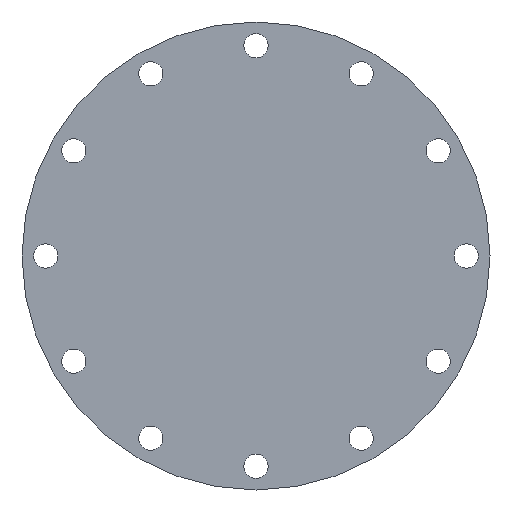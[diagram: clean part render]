
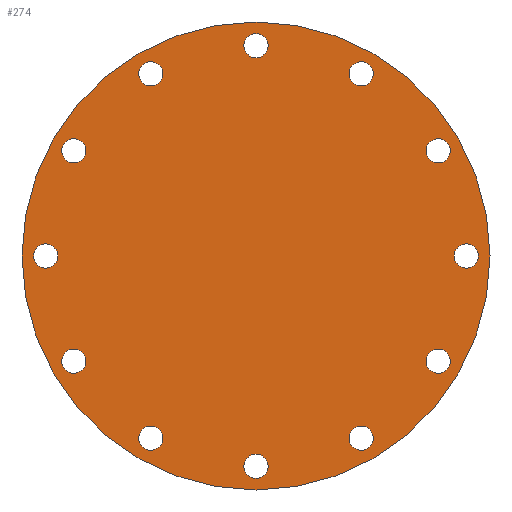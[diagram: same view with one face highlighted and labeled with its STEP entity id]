
A CAD part, front view. The second image highlights one B-rep face of the part: STEP entity #274.
In plain terms, the highlighted planar face has unit normal (0, -1, 0).
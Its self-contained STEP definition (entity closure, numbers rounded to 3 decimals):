
#13=PLANE($,#316);
#27=FACE_BOUND($,#91,.T.);
#28=FACE_BOUND($,#92,.T.);
#29=FACE_BOUND($,#93,.T.);
#30=FACE_BOUND($,#94,.T.);
#31=FACE_BOUND($,#95,.T.);
#32=FACE_BOUND($,#96,.T.);
#33=FACE_BOUND($,#97,.T.);
#34=FACE_BOUND($,#98,.T.);
#35=FACE_BOUND($,#99,.T.);
#36=FACE_BOUND($,#100,.T.);
#37=FACE_BOUND($,#101,.T.);
#38=FACE_BOUND($,#102,.T.);
#39=FACE_BOUND($,#103,.T.);
#91=EDGE_LOOP($,(#221));
#92=EDGE_LOOP($,(#222));
#93=EDGE_LOOP($,(#223));
#94=EDGE_LOOP($,(#224));
#95=EDGE_LOOP($,(#225));
#96=EDGE_LOOP($,(#226));
#97=EDGE_LOOP($,(#227));
#98=EDGE_LOOP($,(#228));
#99=EDGE_LOOP($,(#229));
#100=EDGE_LOOP($,(#230));
#101=EDGE_LOOP($,(#231));
#102=EDGE_LOOP($,(#232));
#103=EDGE_LOOP($,(#233));
#120=CIRCLE($,#282,11.5);
#122=CIRCLE($,#285,11.5);
#124=CIRCLE($,#288,11.5);
#126=CIRCLE($,#291,11.5);
#128=CIRCLE($,#294,11.5);
#130=CIRCLE($,#297,11.5);
#132=CIRCLE($,#300,11.5);
#134=CIRCLE($,#303,11.5);
#136=CIRCLE($,#306,11.5);
#138=CIRCLE($,#309,11.5);
#140=CIRCLE($,#312,11.5);
#142=CIRCLE($,#315,11.5);
#143=CIRCLE($,#317,222.5);
#146=VERTEX_POINT($,#409);
#148=VERTEX_POINT($,#414);
#150=VERTEX_POINT($,#419);
#152=VERTEX_POINT($,#424);
#154=VERTEX_POINT($,#429);
#156=VERTEX_POINT($,#434);
#158=VERTEX_POINT($,#439);
#160=VERTEX_POINT($,#444);
#162=VERTEX_POINT($,#449);
#164=VERTEX_POINT($,#454);
#166=VERTEX_POINT($,#459);
#168=VERTEX_POINT($,#464);
#169=VERTEX_POINT($,#467);
#172=EDGE_CURVE($,#146,#146,#120,.T.);
#174=EDGE_CURVE($,#148,#148,#122,.T.);
#176=EDGE_CURVE($,#150,#150,#124,.T.);
#178=EDGE_CURVE($,#152,#152,#126,.T.);
#180=EDGE_CURVE($,#154,#154,#128,.T.);
#182=EDGE_CURVE($,#156,#156,#130,.T.);
#184=EDGE_CURVE($,#158,#158,#132,.T.);
#186=EDGE_CURVE($,#160,#160,#134,.T.);
#188=EDGE_CURVE($,#162,#162,#136,.T.);
#190=EDGE_CURVE($,#164,#164,#138,.T.);
#192=EDGE_CURVE($,#166,#166,#140,.T.);
#194=EDGE_CURVE($,#168,#168,#142,.T.);
#195=EDGE_CURVE($,#169,#169,#143,.T.);
#221=ORIENTED_EDGE($,*,*,#172,.T.);
#222=ORIENTED_EDGE($,*,*,#174,.T.);
#223=ORIENTED_EDGE($,*,*,#176,.T.);
#224=ORIENTED_EDGE($,*,*,#178,.T.);
#225=ORIENTED_EDGE($,*,*,#180,.T.);
#226=ORIENTED_EDGE($,*,*,#182,.T.);
#227=ORIENTED_EDGE($,*,*,#184,.T.);
#228=ORIENTED_EDGE($,*,*,#186,.T.);
#229=ORIENTED_EDGE($,*,*,#188,.T.);
#230=ORIENTED_EDGE($,*,*,#190,.T.);
#231=ORIENTED_EDGE($,*,*,#192,.T.);
#232=ORIENTED_EDGE($,*,*,#194,.T.);
#233=ORIENTED_EDGE($,*,*,#195,.F.);
#274=ADVANCED_FACE($,(#27,#28,#29,#30,#31,#32,#33,#34,#35,#36,#37,#38,#39),
#13,.T.);
#282=AXIS2_PLACEMENT_3D($,#410,#327,#328);
#285=AXIS2_PLACEMENT_3D($,#415,#333,#334);
#288=AXIS2_PLACEMENT_3D($,#420,#339,#340);
#291=AXIS2_PLACEMENT_3D($,#425,#345,#346);
#294=AXIS2_PLACEMENT_3D($,#430,#351,#352);
#297=AXIS2_PLACEMENT_3D($,#435,#357,#358);
#300=AXIS2_PLACEMENT_3D($,#440,#363,#364);
#303=AXIS2_PLACEMENT_3D($,#445,#369,#370);
#306=AXIS2_PLACEMENT_3D($,#450,#375,#376);
#309=AXIS2_PLACEMENT_3D($,#455,#381,#382);
#312=AXIS2_PLACEMENT_3D($,#460,#387,#388);
#315=AXIS2_PLACEMENT_3D($,#465,#393,#394);
#316=AXIS2_PLACEMENT_3D($,#466,#395,#396);
#317=AXIS2_PLACEMENT_3D($,#468,#397,#398);
#327=DIRECTION('center_axis',(0.,1.,0.));
#328=DIRECTION('ref_axis',(0.866,0.,0.5));
#333=DIRECTION('center_axis',(0.,1.,0.));
#334=DIRECTION('ref_axis',(0.5,0.,0.866));
#339=DIRECTION('center_axis',(0.,1.,0.));
#340=DIRECTION('ref_axis',(0.,0.,1.));
#345=DIRECTION('center_axis',(0.,1.,0.));
#346=DIRECTION('ref_axis',(-0.5,0.,0.866));
#351=DIRECTION('center_axis',(0.,1.,0.));
#352=DIRECTION('ref_axis',(-0.866,0.,0.5));
#357=DIRECTION('center_axis',(0.,1.,0.));
#358=DIRECTION('ref_axis',(-1.,0.,0.));
#363=DIRECTION('center_axis',(0.,1.,0.));
#364=DIRECTION('ref_axis',(-0.866,0.,-0.5));
#369=DIRECTION('center_axis',(0.,1.,0.));
#370=DIRECTION('ref_axis',(-0.5,0.,-0.866));
#375=DIRECTION('center_axis',(0.,1.,0.));
#376=DIRECTION('ref_axis',(0.,0.,-1.));
#381=DIRECTION('center_axis',(0.,1.,0.));
#382=DIRECTION('ref_axis',(0.5,0.,-0.866));
#387=DIRECTION('center_axis',(0.,1.,0.));
#388=DIRECTION('ref_axis',(0.866,0.,-0.5));
#393=DIRECTION('center_axis',(0.,1.,0.));
#394=DIRECTION('ref_axis',(1.,0.,0.));
#395=DIRECTION('center_axis',(0.,-1.,0.));
#396=DIRECTION('ref_axis',(0.,0.,-1.));
#397=DIRECTION('center_axis',(0.,1.,0.));
#398=DIRECTION('ref_axis',(-1.,0.,0.));
#409=CARTESIAN_POINT('',(163.246,0.,94.25));
#410=CARTESIAN_POINT('Origin',(173.205,0.,100.));
#414=CARTESIAN_POINT('',(94.25,0.,163.246));
#415=CARTESIAN_POINT('Origin',(100.,0.,173.205));
#419=CARTESIAN_POINT('',(0.,0.,188.5));
#420=CARTESIAN_POINT('Origin',(0.,0.,200.));
#424=CARTESIAN_POINT('',(-94.25,0.,163.246));
#425=CARTESIAN_POINT('Origin',(-100.,0.,173.205));
#429=CARTESIAN_POINT('',(-163.246,0.,94.25));
#430=CARTESIAN_POINT('Origin',(-173.205,0.,100.));
#434=CARTESIAN_POINT('',(-188.5,0.,0.));
#435=CARTESIAN_POINT('Origin',(-200.,0.,0.));
#439=CARTESIAN_POINT('',(-163.246,0.,-94.25));
#440=CARTESIAN_POINT('Origin',(-173.205,0.,-100.));
#444=CARTESIAN_POINT('',(-94.25,0.,-163.246));
#445=CARTESIAN_POINT('Origin',(-100.,0.,-173.205));
#449=CARTESIAN_POINT('',(0.,0.,-188.5));
#450=CARTESIAN_POINT('Origin',(0.,0.,-200.));
#454=CARTESIAN_POINT('',(94.25,0.,-163.246));
#455=CARTESIAN_POINT('Origin',(100.,0.,-173.205));
#459=CARTESIAN_POINT('',(163.246,0.,-94.25));
#460=CARTESIAN_POINT('Origin',(173.205,0.,-100.));
#464=CARTESIAN_POINT('',(188.5,0.,0.));
#465=CARTESIAN_POINT('Origin',(200.,0.,0.));
#466=CARTESIAN_POINT('Origin',(-111.25,0.,0.));
#467=CARTESIAN_POINT('',(-222.5,0.,0.));
#468=CARTESIAN_POINT('Origin',(0.,0.,0.));
